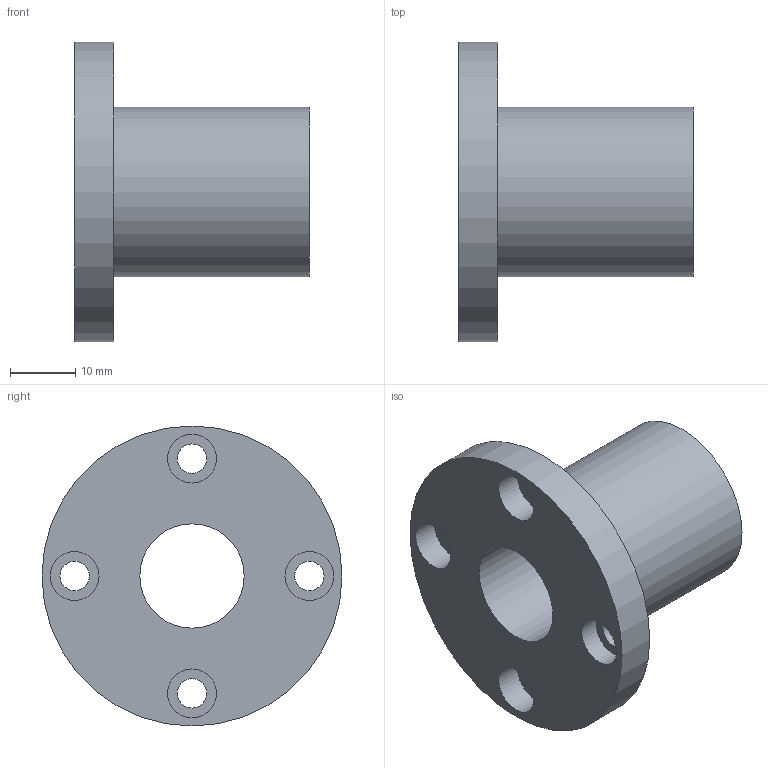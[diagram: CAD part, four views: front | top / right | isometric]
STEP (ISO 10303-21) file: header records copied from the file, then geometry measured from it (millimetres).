
FILE_DESCRIPTION( ( 'STEP AP203' ), '1' );
FILE_NAME( 'p:/temp/worker_5/temp/exporttempdir_1488_699_uSrWJ/format_0/LMEF16UU.stp', '2020-05-07T03:19:40', ( 'License CC BY-ND 4.0' ), ( 'CADENAS' ), ' ', 'PARTsolutions', ' ' );
FILE_SCHEMA( ( 'CONFIG_CONTROL_DESIGN' ) );
Length unit declared in the file: millimetre
Products named in the file (1): _LMEF16UU
Bounding box: 36 x 46 x 46 mm (x, y, z)
Volume: 17843.9 mm3; surface area: 8406 mm2
Topology: 1 solids, 1 shells, 18 faces, 34 edges, 23 vertices
Faces by surface type: cylinder 11, plane 7
Full cylindrical faces by diameter (mm): 4.5 x4, 7.5 x4, 16 x1, 26 x1, 46 x1
Entity records: 468 total; most frequent: DIRECTION 82, CARTESIAN_POINT 63, EDGE_LOOP 44, ORIENTED_EDGE 44, AXIS2_PLACEMENT_3D 41, FACE_OUTER_BOUND 29, EDGE_CURVE 22, VERTEX_POINT 22
